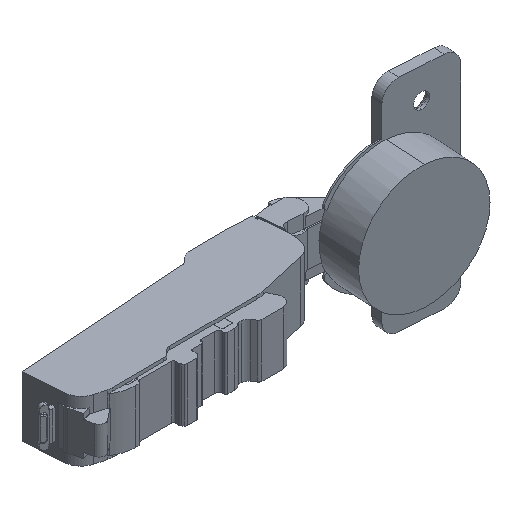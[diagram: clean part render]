
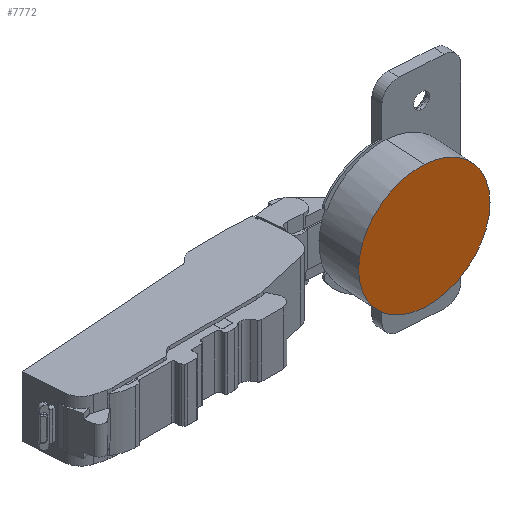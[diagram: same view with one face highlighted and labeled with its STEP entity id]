
A CAD part, isometric view. The second image highlights one B-rep face of the part: STEP entity #7772.
In plain terms, the highlighted planar face has unit normal (-0.061, -0.998, 0).
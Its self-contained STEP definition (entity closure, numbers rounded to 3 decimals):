
#2 = CARTESIAN_POINT ( 'NONE',  ( 62.031, 7.154, 0. ) ) ;
#1670 = AXIS2_PLACEMENT_3D ( 'NONE', #10972, #4559, #10911 ) ;
#2808 = PLANE ( 'NONE',  #4303 ) ;
#2957 = ORIENTED_EDGE ( 'NONE', *, *, #10330, .T. ) ;
#3634 = DIRECTION ( 'NONE',  ( -0.061, -0.998, 0. ) ) ;
#4048 = CIRCLE ( 'NONE', #9159, 17.45 ) ;
#4303 = AXIS2_PLACEMENT_3D ( 'NONE', #2, #3634, #7257 ) ;
#4542 = ORIENTED_EDGE ( 'NONE', *, *, #6470, .T. ) ;
#4559 = DIRECTION ( 'NONE',  ( -0.061, -0.998, 0. ) ) ;
#4627 = VERTEX_POINT ( 'NONE', #6630 ) ;
#5360 = FACE_OUTER_BOUND ( 'NONE', #5744, .T. ) ;
#5744 = EDGE_LOOP ( 'NONE', ( #4542, #2957 ) ) ;
#6366 = DIRECTION ( 'NONE',  ( 0.998, -0.061, 0. ) ) ;
#6470 = EDGE_CURVE ( 'NONE', #4627, #7917, #4048, .T. ) ;
#6481 = DIRECTION ( 'NONE',  ( -0.061, -0.998, 0. ) ) ;
#6630 = CARTESIAN_POINT ( 'NONE',  ( 62.031, 7.154, 17.45 ) ) ;
#6800 = CIRCLE ( 'NONE', #1670, 17.45 ) ;
#7257 = DIRECTION ( 'NONE',  ( -0.998, 0.061, 0. ) ) ;
#7772 = ADVANCED_FACE ( 'NONE', ( #5360 ), #2808, .T. ) ;
#7917 = VERTEX_POINT ( 'NONE', #8492 ) ;
#8492 = CARTESIAN_POINT ( 'NONE',  ( 62.031, 7.154, -17.45 ) ) ;
#9159 = AXIS2_PLACEMENT_3D ( 'NONE', #11111, #6481, #6366 ) ;
#10330 = EDGE_CURVE ( 'NONE', #7917, #4627, #6800, .T. ) ;
#10911 = DIRECTION ( 'NONE',  ( 0.998, -0.061, 0. ) ) ;
#10972 = CARTESIAN_POINT ( 'NONE',  ( 62.031, 7.154, 0. ) ) ;
#11111 = CARTESIAN_POINT ( 'NONE',  ( 62.031, 7.154, 0. ) ) ;
